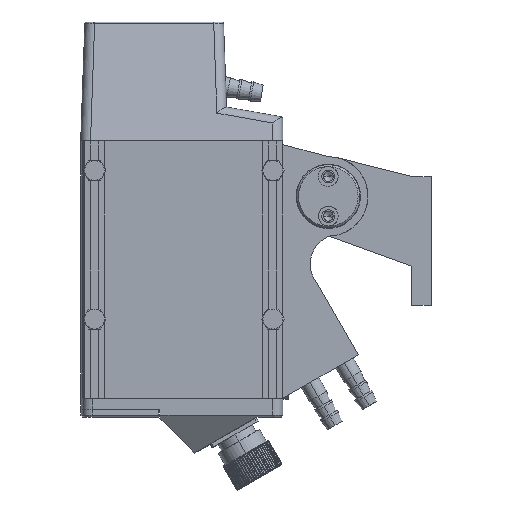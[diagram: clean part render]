
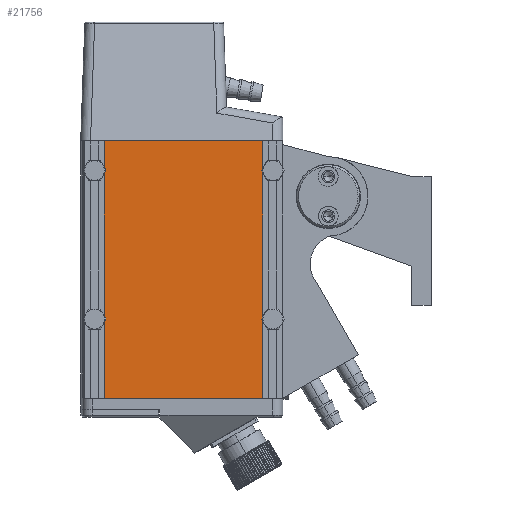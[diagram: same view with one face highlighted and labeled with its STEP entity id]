
A CAD part, left-side view. The second image highlights one B-rep face of the part: STEP entity #21756.
In plain terms, the highlighted planar face has unit normal (-1, 0, 0) as drawn and (0, 0, -1) by its records, which use the part's own axes.
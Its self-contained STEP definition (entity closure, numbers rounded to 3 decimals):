
#21474 = EDGE_CURVE ( 'NONE', #34249, #34247, #49523, .T. ) ;
#21475 = EDGE_CURVE ( 'NONE', #34248, #34247, #49522, .T. ) ;
#21476 = EDGE_CURVE ( 'NONE', #34248, #34243, #49521, .T. ) ;
#21477 = EDGE_CURVE ( 'NONE', #34249, #34243, #49534, .T. ) ;
#21756 = ADVANCED_FACE ( 'NONE', ( #52114 ), #52108, .T. ) ;
#27937 = EDGE_LOOP ( 'NONE', ( #28556, #28557, #28558, #28559 ) ) ;
#28556 = ORIENTED_EDGE ( 'NONE', *, *, #21474, .T. ) ;
#28557 = ORIENTED_EDGE ( 'NONE', *, *, #21475, .F. ) ;
#28558 = ORIENTED_EDGE ( 'NONE', *, *, #21476, .T. ) ;
#28559 = ORIENTED_EDGE ( 'NONE', *, *, #21477, .F. ) ;
#34243 = VERTEX_POINT ( 'NONE', #37486 ) ;
#34247 = VERTEX_POINT ( 'NONE', #37492 ) ;
#34248 = VERTEX_POINT ( 'NONE', #37493 ) ;
#34249 = VERTEX_POINT ( 'NONE', #37494 ) ;
#37486 = CARTESIAN_POINT ( 'NONE',  ( 0., 90., -4. ) ) ;
#37492 = CARTESIAN_POINT ( 'NONE',  ( 130., 10., -4. ) ) ;
#37493 = CARTESIAN_POINT ( 'NONE',  ( 0., 10., -4. ) ) ;
#37494 = CARTESIAN_POINT ( 'NONE',  ( 130., 90., -4. ) ) ;
#45347 = VECTOR ( 'NONE', #49528, 1000. ) ;
#45348 = VECTOR ( 'NONE', #49531, 1000. ) ;
#45350 = VECTOR ( 'NONE', #49533, 1000. ) ;
#45352 = VECTOR ( 'NONE', #49537, 1000. ) ;
#49519 = CARTESIAN_POINT ( 'NONE',  ( 130., 100., -4. ) ) ;
#49521 = LINE ( 'NONE', #49532, #45350 ) ;
#49522 = LINE ( 'NONE', #49529, #45348 ) ;
#49523 = LINE ( 'NONE', #49519, #45347 ) ;
#49528 = DIRECTION ( 'NONE',  ( 0., -1., 0. ) ) ;
#49529 = CARTESIAN_POINT ( 'NONE',  ( 130., 10., -4. ) ) ;
#49531 = DIRECTION ( 'NONE',  ( 1., 0., 0. ) ) ;
#49532 = CARTESIAN_POINT ( 'NONE',  ( 0., 100., -4. ) ) ;
#49533 = DIRECTION ( 'NONE',  ( 0., 1., 0. ) ) ;
#49534 = LINE ( 'NONE', #49536, #45352 ) ;
#49536 = CARTESIAN_POINT ( 'NONE',  ( 130., 90., -4. ) ) ;
#49537 = DIRECTION ( 'NONE',  ( -1., 0., 0. ) ) ;
#50555 = AXIS2_PLACEMENT_3D ( 'NONE', #52111, #52116, #52117 ) ;
#52108 = PLANE ( 'NONE',  #50555 ) ;
#52111 = CARTESIAN_POINT ( 'NONE',  ( 130., 0., -4. ) ) ;
#52114 = FACE_OUTER_BOUND ( 'NONE', #27937, .T. ) ;
#52116 = DIRECTION ( 'NONE',  ( 0., 0., -1. ) ) ;
#52117 = DIRECTION ( 'NONE',  ( -1., 0., 0. ) ) ;
